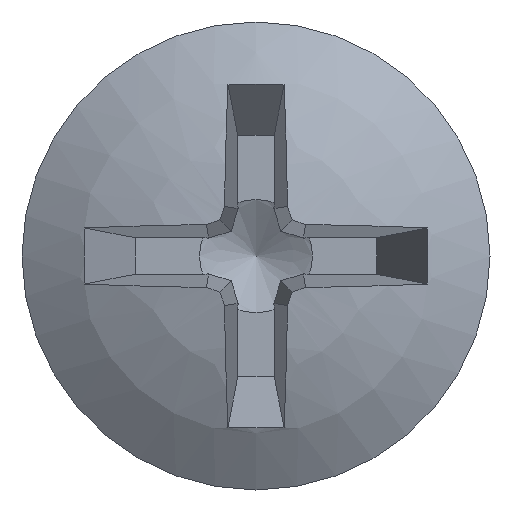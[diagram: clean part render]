
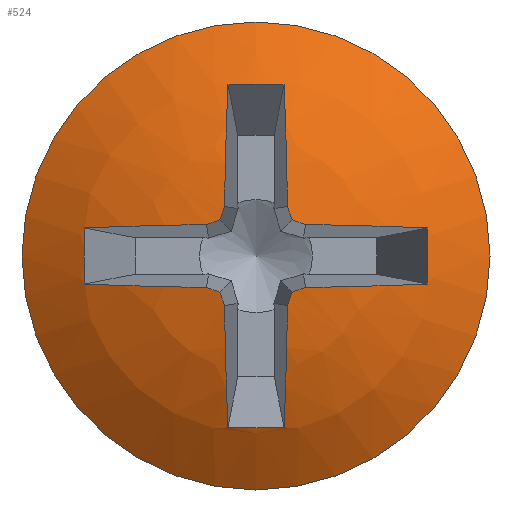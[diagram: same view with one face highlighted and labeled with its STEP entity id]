
A CAD part, left-side view. The second image highlights one B-rep face of the part: STEP entity #524.
In plain terms, the highlighted spherical face has radius 8 mm.
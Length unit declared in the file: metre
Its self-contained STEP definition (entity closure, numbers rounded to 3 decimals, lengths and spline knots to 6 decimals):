
#34=SPHERICAL_SURFACE('',#572,0.008);
#38=CIRCLE('',#573,0.007999);
#39=CIRCLE('',#574,0.007998);
#40=CIRCLE('',#575,0.007998);
#41=CIRCLE('',#576,0.007999);
#42=CIRCLE('',#577,0.008);
#43=CIRCLE('',#578,0.007999);
#44=CIRCLE('',#579,0.007998);
#45=CIRCLE('',#580,0.007998);
#46=CIRCLE('',#581,0.007999);
#47=CIRCLE('',#582,0.008);
#48=CIRCLE('',#583,0.007999);
#49=CIRCLE('',#584,0.007998);
#50=CIRCLE('',#585,0.007998);
#51=CIRCLE('',#586,0.007999);
#52=CIRCLE('',#587,0.008);
#53=CIRCLE('',#588,0.007999);
#54=CIRCLE('',#589,0.007998);
#55=CIRCLE('',#590,0.007998);
#56=CIRCLE('',#591,0.007999);
#57=CIRCLE('',#592,0.008);
#58=CIRCLE('',#593,0.00475);
#77=ORIENTED_EDGE('',*,*,#233,.F.);
#78=ORIENTED_EDGE('',*,*,#234,.T.);
#79=ORIENTED_EDGE('',*,*,#235,.T.);
#80=ORIENTED_EDGE('',*,*,#236,.T.);
#81=ORIENTED_EDGE('',*,*,#237,.F.);
#82=ORIENTED_EDGE('',*,*,#238,.F.);
#83=ORIENTED_EDGE('',*,*,#239,.T.);
#84=ORIENTED_EDGE('',*,*,#240,.T.);
#85=ORIENTED_EDGE('',*,*,#241,.F.);
#86=ORIENTED_EDGE('',*,*,#242,.T.);
#87=ORIENTED_EDGE('',*,*,#243,.T.);
#88=ORIENTED_EDGE('',*,*,#244,.T.);
#89=ORIENTED_EDGE('',*,*,#245,.T.);
#90=ORIENTED_EDGE('',*,*,#246,.F.);
#91=ORIENTED_EDGE('',*,*,#247,.T.);
#92=ORIENTED_EDGE('',*,*,#248,.T.);
#93=ORIENTED_EDGE('',*,*,#249,.T.);
#94=ORIENTED_EDGE('',*,*,#250,.T.);
#95=ORIENTED_EDGE('',*,*,#251,.T.);
#96=ORIENTED_EDGE('',*,*,#252,.F.);
#97=ORIENTED_EDGE('',*,*,#253,.F.);
#233=EDGE_CURVE('',#311,#312,#38,.T.);
#234=EDGE_CURVE('',#311,#313,#39,.F.);
#235=EDGE_CURVE('',#313,#314,#40,.F.);
#236=EDGE_CURVE('',#314,#315,#41,.F.);
#237=EDGE_CURVE('',#316,#315,#42,.T.);
#238=EDGE_CURVE('',#317,#316,#43,.T.);
#239=EDGE_CURVE('',#317,#318,#44,.F.);
#240=EDGE_CURVE('',#318,#319,#45,.F.);
#241=EDGE_CURVE('',#320,#319,#46,.T.);
#242=EDGE_CURVE('',#320,#321,#47,.F.);
#243=EDGE_CURVE('',#321,#322,#48,.F.);
#244=EDGE_CURVE('',#322,#323,#49,.F.);
#245=EDGE_CURVE('',#323,#324,#50,.F.);
#246=EDGE_CURVE('',#325,#324,#51,.T.);
#247=EDGE_CURVE('',#325,#326,#52,.F.);
#248=EDGE_CURVE('',#326,#327,#53,.F.);
#249=EDGE_CURVE('',#327,#328,#54,.F.);
#250=EDGE_CURVE('',#328,#329,#55,.F.);
#251=EDGE_CURVE('',#329,#330,#56,.F.);
#252=EDGE_CURVE('',#312,#330,#57,.T.);
#253=EDGE_CURVE('',#331,#331,#58,.T.);
#311=VERTEX_POINT('',#816);
#312=VERTEX_POINT('',#817);
#313=VERTEX_POINT('',#819);
#314=VERTEX_POINT('',#821);
#315=VERTEX_POINT('',#823);
#316=VERTEX_POINT('',#825);
#317=VERTEX_POINT('',#827);
#318=VERTEX_POINT('',#829);
#319=VERTEX_POINT('',#831);
#320=VERTEX_POINT('',#833);
#321=VERTEX_POINT('',#835);
#322=VERTEX_POINT('',#837);
#323=VERTEX_POINT('',#839);
#324=VERTEX_POINT('',#841);
#325=VERTEX_POINT('',#843);
#326=VERTEX_POINT('',#845);
#327=VERTEX_POINT('',#847);
#328=VERTEX_POINT('',#849);
#329=VERTEX_POINT('',#851);
#330=VERTEX_POINT('',#853);
#331=VERTEX_POINT('',#856);
#421=EDGE_LOOP('',(#77,#78,#79,#80,#81,#82,#83,#84,#85,#86,#87,#88,#89,
#90,#91,#92,#93,#94,#95,#96));
#422=EDGE_LOOP('',(#97));
#459=FACE_BOUND('',#421,.T.);
#460=FACE_BOUND('',#422,.T.);
#524=ADVANCED_FACE('',(#459,#460),#34,.T.);
#572=AXIS2_PLACEMENT_3D('',#814,#651,#652);
#573=AXIS2_PLACEMENT_3D('',#815,#653,#654);
#574=AXIS2_PLACEMENT_3D('',#818,#655,#656);
#575=AXIS2_PLACEMENT_3D('',#820,#657,#658);
#576=AXIS2_PLACEMENT_3D('',#822,#659,#660);
#577=AXIS2_PLACEMENT_3D('',#824,#661,#662);
#578=AXIS2_PLACEMENT_3D('',#826,#663,#664);
#579=AXIS2_PLACEMENT_3D('',#828,#665,#666);
#580=AXIS2_PLACEMENT_3D('',#830,#667,#668);
#581=AXIS2_PLACEMENT_3D('',#832,#669,#670);
#582=AXIS2_PLACEMENT_3D('',#834,#671,#672);
#583=AXIS2_PLACEMENT_3D('',#836,#673,#674);
#584=AXIS2_PLACEMENT_3D('',#838,#675,#676);
#585=AXIS2_PLACEMENT_3D('',#840,#677,#678);
#586=AXIS2_PLACEMENT_3D('',#842,#679,#680);
#587=AXIS2_PLACEMENT_3D('',#844,#681,#682);
#588=AXIS2_PLACEMENT_3D('',#846,#683,#684);
#589=AXIS2_PLACEMENT_3D('',#848,#685,#686);
#590=AXIS2_PLACEMENT_3D('',#850,#687,#688);
#591=AXIS2_PLACEMENT_3D('',#852,#689,#690);
#592=AXIS2_PLACEMENT_3D('',#854,#691,#692);
#593=AXIS2_PLACEMENT_3D('',#855,#693,#694);
#651=DIRECTION('',(1.,0.,0.));
#652=DIRECTION('',(0.,0.,1.));
#653=DIRECTION('',(-0.095,-0.995,0.));
#654=DIRECTION('',(-0.995,0.095,0.));
#655=DIRECTION('',(-0.095,-0.943,0.318));
#656=DIRECTION('',(0.,0.319,0.948));
#657=DIRECTION('',(-0.095,-0.318,0.943));
#658=DIRECTION('',(0.,0.948,0.319));
#659=DIRECTION('',(-0.095,0.,0.995));
#660=DIRECTION('',(-0.995,0.,-0.095));
#661=DIRECTION('',(-0.443,-0.896,0.));
#662=DIRECTION('',(-0.896,0.443,0.));
#663=DIRECTION('',(-0.095,0.,-0.995));
#664=DIRECTION('',(0.995,0.,-0.095));
#665=DIRECTION('',(-0.095,-0.318,-0.943));
#666=DIRECTION('',(0.,-0.948,0.319));
#667=DIRECTION('',(-0.095,-0.943,-0.318));
#668=DIRECTION('',(0.,-0.319,0.948));
#669=DIRECTION('',(-0.095,-0.995,0.));
#670=DIRECTION('',(-0.995,0.095,0.));
#671=DIRECTION('',(-0.443,0.,-0.896));
#672=DIRECTION('',(0.896,0.,-0.443));
#673=DIRECTION('',(-0.095,0.995,0.));
#674=DIRECTION('',(0.995,0.095,0.));
#675=DIRECTION('',(-0.095,0.943,-0.318));
#676=DIRECTION('',(0.,-0.319,-0.948));
#677=DIRECTION('',(-0.095,0.318,-0.943));
#678=DIRECTION('',(0.,-0.948,-0.319));
#679=DIRECTION('',(-0.095,0.,-0.995));
#680=DIRECTION('',(0.995,0.,-0.095));
#681=DIRECTION('',(-0.443,0.896,0.));
#682=DIRECTION('',(0.896,0.443,0.));
#683=DIRECTION('',(-0.095,0.,0.995));
#684=DIRECTION('',(-0.995,0.,-0.095));
#685=DIRECTION('',(-0.095,0.318,0.943));
#686=DIRECTION('',(0.,0.948,-0.319));
#687=DIRECTION('',(-0.095,0.943,0.318));
#688=DIRECTION('',(0.,0.319,-0.948));
#689=DIRECTION('',(-0.095,0.995,0.));
#690=DIRECTION('',(0.995,0.095,0.));
#691=DIRECTION('',(-0.443,0.,0.896));
#692=DIRECTION('',(-0.896,0.,-0.443));
#693=DIRECTION('',(1.,0.,0.));
#694=DIRECTION('',(0.,0.,1.));
#814=CARTESIAN_POINT('',(-0.054377,0.078331,-0.052701));
#815=CARTESIAN_POINT('',(-0.054388,0.078215,-0.052701));
#816=CARTESIAN_POINT('',(-0.062287,0.078969,-0.053709));
#817=CARTESIAN_POINT('',(-0.061558,0.078899,-0.05618));
#818=CARTESIAN_POINT('',(-0.054361,0.078492,-0.052756));
#819=CARTESIAN_POINT('',(-0.062309,0.079064,-0.053434));
#820=CARTESIAN_POINT('',(-0.054361,0.078385,-0.052863));
#821=CARTESIAN_POINT('',(-0.062287,0.079338,-0.053339));
#822=CARTESIAN_POINT('',(-0.054388,0.078331,-0.052586));
#823=CARTESIAN_POINT('',(-0.061558,0.081809,-0.05327));
#824=CARTESIAN_POINT('',(-0.054405,0.078274,-0.052701));
#825=CARTESIAN_POINT('',(-0.061558,0.081809,-0.052133));
#826=CARTESIAN_POINT('',(-0.054388,0.078331,-0.052817));
#827=CARTESIAN_POINT('',(-0.062287,0.079338,-0.052063));
#828=CARTESIAN_POINT('',(-0.054361,0.078385,-0.05254));
#829=CARTESIAN_POINT('',(-0.062309,0.079064,-0.051968));
#830=CARTESIAN_POINT('',(-0.054361,0.078492,-0.052647));
#831=CARTESIAN_POINT('',(-0.062287,0.078969,-0.051693));
#832=CARTESIAN_POINT('',(-0.054388,0.078215,-0.052701));
#833=CARTESIAN_POINT('',(-0.061558,0.078899,-0.049222));
#834=CARTESIAN_POINT('',(-0.054405,0.078331,-0.052758));
#835=CARTESIAN_POINT('',(-0.061558,0.077762,-0.049222));
#836=CARTESIAN_POINT('',(-0.054388,0.078446,-0.052701));
#837=CARTESIAN_POINT('',(-0.062287,0.077692,-0.051693));
#838=CARTESIAN_POINT('',(-0.054361,0.078169,-0.052647));
#839=CARTESIAN_POINT('',(-0.062309,0.077598,-0.051968));
#840=CARTESIAN_POINT('',(-0.054361,0.078276,-0.05254));
#841=CARTESIAN_POINT('',(-0.062287,0.077323,-0.052063));
#842=CARTESIAN_POINT('',(-0.054388,0.078331,-0.052817));
#843=CARTESIAN_POINT('',(-0.061558,0.074852,-0.052133));
#844=CARTESIAN_POINT('',(-0.054405,0.078387,-0.052701));
#845=CARTESIAN_POINT('',(-0.061558,0.074852,-0.05327));
#846=CARTESIAN_POINT('',(-0.054388,0.078331,-0.052586));
#847=CARTESIAN_POINT('',(-0.062287,0.077323,-0.053339));
#848=CARTESIAN_POINT('',(-0.054361,0.078276,-0.052863));
#849=CARTESIAN_POINT('',(-0.062309,0.077598,-0.053434));
#850=CARTESIAN_POINT('',(-0.054361,0.078169,-0.052756));
#851=CARTESIAN_POINT('',(-0.062287,0.077692,-0.053709));
#852=CARTESIAN_POINT('',(-0.054388,0.078446,-0.052701));
#853=CARTESIAN_POINT('',(-0.061558,0.077762,-0.05618));
#854=CARTESIAN_POINT('',(-0.054405,0.078331,-0.052644));
#855=CARTESIAN_POINT('',(-0.060814,0.078331,-0.052701));
#856=CARTESIAN_POINT('',(-0.060814,0.078331,-0.047951));
